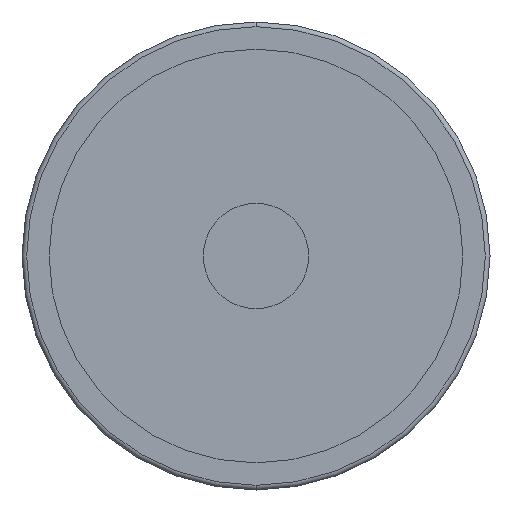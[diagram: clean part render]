
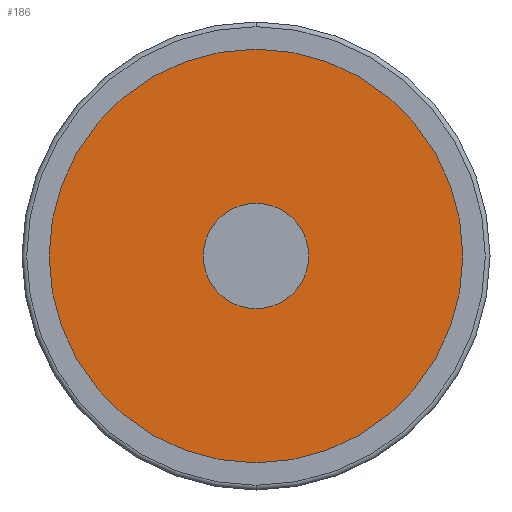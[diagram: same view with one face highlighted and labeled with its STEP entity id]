
A CAD part, front view. The second image highlights one B-rep face of the part: STEP entity #186.
In plain terms, the highlighted planar face has unit normal (0, -1, 0).
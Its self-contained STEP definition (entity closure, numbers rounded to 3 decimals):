
#22 = DIRECTION ( 'NONE',  ( 1., 0., 0. ) ) ;
#142 = EDGE_CURVE ( 'NONE', #964, #2294, #1144, .T. ) ;
#186 = ADVANCED_FACE ( 'NONE', ( #1978, #273 ), #3238, .T. ) ;
#266 = DIRECTION ( 'NONE',  ( 0., -1., 0. ) ) ;
#273 = FACE_BOUND ( 'NONE', #1310, .T. ) ;
#306 = ORIENTED_EDGE ( 'NONE', *, *, #1052, .F. ) ;
#390 = CIRCLE ( 'NONE', #1272, 10.25 ) ;
#852 = VERTEX_POINT ( 'NONE', #1729 ) ;
#869 = ORIENTED_EDGE ( 'NONE', *, *, #142, .T. ) ;
#901 = DIRECTION ( 'NONE',  ( 0., -1., 0. ) ) ;
#964 = VERTEX_POINT ( 'NONE', #2557 ) ;
#1052 = EDGE_CURVE ( 'NONE', #852, #1213, #390, .T. ) ;
#1144 = CIRCLE ( 'NONE', #1451, 44.3 ) ;
#1213 = VERTEX_POINT ( 'NONE', #3036 ) ;
#1218 = DIRECTION ( 'NONE',  ( 0., -1., 0. ) ) ;
#1272 = AXIS2_PLACEMENT_3D ( 'NONE', #1688, #2693, #1442 ) ;
#1277 = AXIS2_PLACEMENT_3D ( 'NONE', #3049, #2317, #1587 ) ;
#1310 = EDGE_LOOP ( 'NONE', ( #306, #2630 ) ) ;
#1368 = CARTESIAN_POINT ( 'NONE',  ( 0., 4.5, 0. ) ) ;
#1442 = DIRECTION ( 'NONE',  ( 1., 0., 0. ) ) ;
#1451 = AXIS2_PLACEMENT_3D ( 'NONE', #3091, #266, #1520 ) ;
#1520 = DIRECTION ( 'NONE',  ( 1., 0., 0. ) ) ;
#1587 = DIRECTION ( 'NONE',  ( 1., 0., 0. ) ) ;
#1688 = CARTESIAN_POINT ( 'NONE',  ( 0., 4.5, 0. ) ) ;
#1729 = CARTESIAN_POINT ( 'NONE',  ( 10.25, 4.5, 0. ) ) ;
#1881 = CARTESIAN_POINT ( 'NONE',  ( -44.3, 4.5, 0. ) ) ;
#1900 = EDGE_CURVE ( 'NONE', #2294, #964, #2225, .T. ) ;
#1908 = DIRECTION ( 'NONE',  ( 1., 0., 0. ) ) ;
#1964 = AXIS2_PLACEMENT_3D ( 'NONE', #1368, #901, #1908 ) ;
#1978 = FACE_OUTER_BOUND ( 'NONE', #2920, .T. ) ;
#2160 = ORIENTED_EDGE ( 'NONE', *, *, #1900, .T. ) ;
#2225 = CIRCLE ( 'NONE', #1964, 44.3 ) ;
#2270 = CARTESIAN_POINT ( 'NONE',  ( -44.3, 4.5, 0. ) ) ;
#2294 = VERTEX_POINT ( 'NONE', #1881 ) ;
#2317 = DIRECTION ( 'NONE',  ( 0., -1., 0. ) ) ;
#2518 = EDGE_CURVE ( 'NONE', #1213, #852, #2701, .T. ) ;
#2557 = CARTESIAN_POINT ( 'NONE',  ( 44.3, 4.5, 0. ) ) ;
#2610 = AXIS2_PLACEMENT_3D ( 'NONE', #2270, #1218, #22 ) ;
#2630 = ORIENTED_EDGE ( 'NONE', *, *, #2518, .F. ) ;
#2693 = DIRECTION ( 'NONE',  ( 0., -1., 0. ) ) ;
#2701 = CIRCLE ( 'NONE', #1277, 10.25 ) ;
#2920 = EDGE_LOOP ( 'NONE', ( #2160, #869 ) ) ;
#3036 = CARTESIAN_POINT ( 'NONE',  ( -10.25, 4.5, 0. ) ) ;
#3049 = CARTESIAN_POINT ( 'NONE',  ( 0., 4.5, 0. ) ) ;
#3091 = CARTESIAN_POINT ( 'NONE',  ( 0., 4.5, 0. ) ) ;
#3238 = PLANE ( 'NONE',  #2610 ) ;
